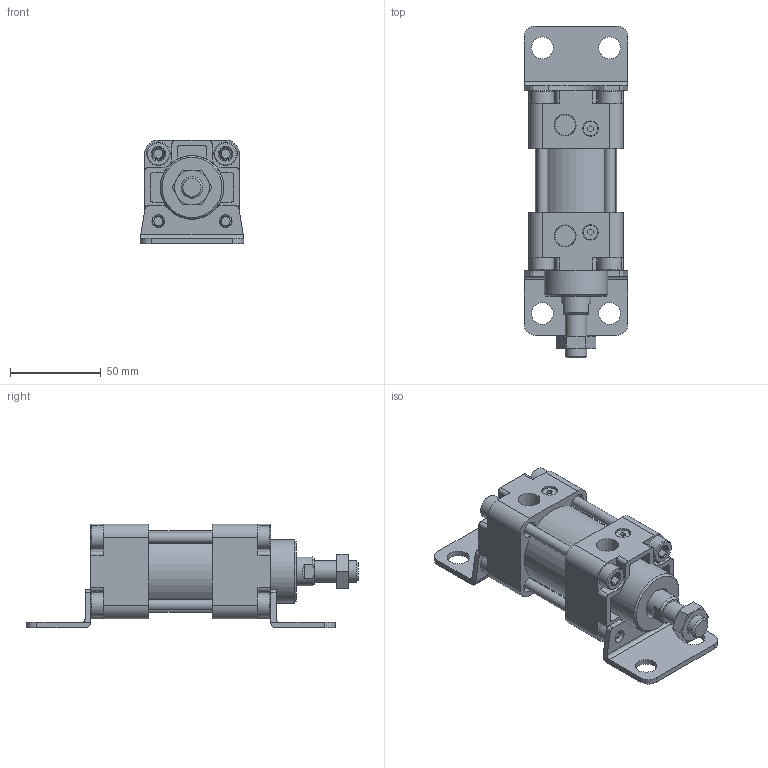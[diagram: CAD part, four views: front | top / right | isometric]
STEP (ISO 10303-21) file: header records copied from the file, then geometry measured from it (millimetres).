
FILE_DESCRIPTION(/* description */ ('Unknown'),/* implementation_level */ '2;1');
FILE_NAME(/* name */ 'WA40-LB',/* time_stamp */ '2026-07-17T16:48:36+08:00',/* author */ ('Unknown'),/* organization */ ('Unknown'),/* preprocessor_version */ 'ST-DEVELOPER v16.7',/* originating_system */ 'DEX',/* authorisation */ $);
FILE_SCHEMA (('CONFIG_CONTROL_DESIGN'));
Length unit declared in the file: millimetre
Products named in the file (8): WA40-LB; WA40_前; WA40_後; WA40_鋁; WA40_､ﾟｶbｬ｡; WA40_T碪墮姊濈祫; WA40_LB; M12-1.25P-7_螺
Assembly tree (11 placements, depth 2):
  WA40-LB
    WA40_前
    WA40_後
    WA40_鋁
    WA40_､ﾟｶbｬ｡
    WA40_T碪墮姊濈祫  x4
    WA40_LB  x2
    M12-1.25P-7_螺
Bounding box: 57 x 182.5 x 57 mm (x, y, z)
Volume: 246561.5 mm3; surface area: 82858.7 mm2
Topology: 11 solids, 11 shells, 392 faces, 949 edges, 636 vertices
Faces by surface type: plane 227, cylinder 128, cone 37
Full cylindrical faces by diameter (mm): 5 x8, 6 x4, 7 x4, 8 x2, 8.5 x2, 8.8 x8, 9 x8, 10.647 x1, 12 x5, 13 x8, 16 x2, 35 x1, 39.5 x1, 40 x3, 45 x1
Entity records: 9349 total; most frequent: CARTESIAN_POINT 1371, DIRECTION 1344, ORIENTED_EDGE 1190, EDGE_CURVE 595, AXIS2_PLACEMENT_3D 502, VERTEX_POINT 417, EDGE_LOOP 364, FACE_BOUND 364
